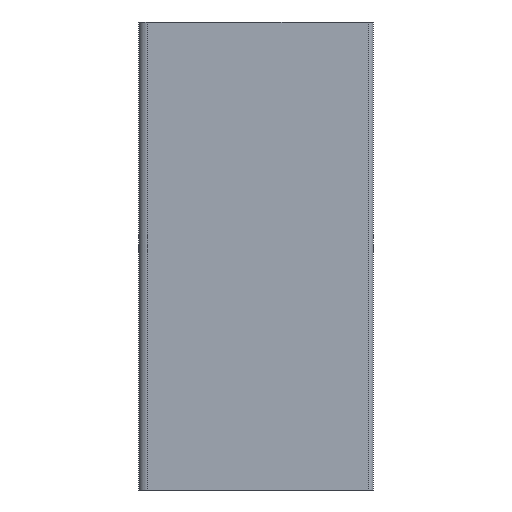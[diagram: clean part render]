
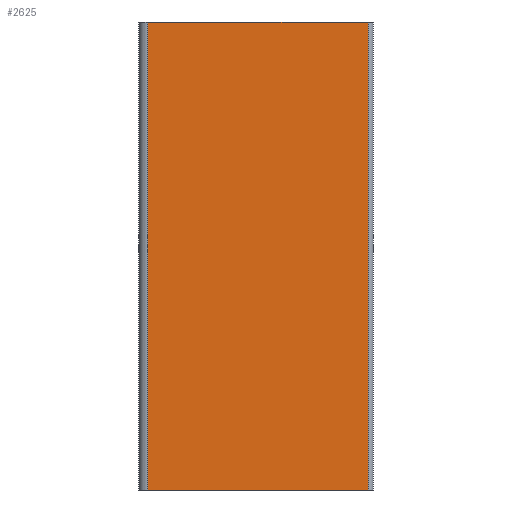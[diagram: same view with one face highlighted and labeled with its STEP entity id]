
A CAD part, left-side view. The second image highlights one B-rep face of the part: STEP entity #2625.
In plain terms, the highlighted planar face has unit normal (-1, 0, 0).
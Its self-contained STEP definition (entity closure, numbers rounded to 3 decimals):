
#186 = VERTEX_POINT ( 'NONE', #3229 ) ;
#364 = LINE ( 'NONE', #365, #366 ) ;
#365 = CARTESIAN_POINT ( 'NONE',  ( -81., 0.5, 50. ) ) ;
#366 = VECTOR ( 'NONE', #367, 1000. ) ;
#367 = DIRECTION ( 'NONE',  ( 0., -1., 0. ) ) ;
#1289 = VERTEX_POINT ( 'NONE', #1365 ) ;
#1365 = CARTESIAN_POINT ( 'NONE',  ( -81., 0.5, 50. ) ) ;
#1506 = EDGE_CURVE ( 'NONE', #1289, #2412, #1531, .T. ) ;
#1531 = LINE ( 'NONE', #1532, #1533 ) ;
#1532 = CARTESIAN_POINT ( 'NONE',  ( -81., 0.5, 50. ) ) ;
#1533 = VECTOR ( 'NONE', #1534, 1000. ) ;
#1534 = DIRECTION ( 'NONE',  ( 0., 0., -1. ) ) ;
#1588 = VERTEX_POINT ( 'NONE', #1604 ) ;
#1604 = CARTESIAN_POINT ( 'NONE',  ( -81., 24.091, 50. ) ) ;
#1772 = LINE ( 'NONE', #1773, #1774 ) ;
#1773 = CARTESIAN_POINT ( 'NONE',  ( -81., 24.091, 50. ) ) ;
#1774 = VECTOR ( 'NONE', #1775, 1000. ) ;
#1775 = DIRECTION ( 'NONE',  ( 0., 0., -1. ) ) ;
#1815 = EDGE_CURVE ( 'NONE', #1588, #186, #1772, .T. ) ;
#1871 = ORIENTED_EDGE ( 'NONE', *, *, #1506, .F. ) ;
#2241 = CARTESIAN_POINT ( 'NONE',  ( -81., 0.5, 0. ) ) ;
#2412 = VERTEX_POINT ( 'NONE', #2241 ) ;
#2529 = EDGE_CURVE ( 'NONE', #186, #2412, #3194, .T. ) ;
#2563 = ORIENTED_EDGE ( 'NONE', *, *, #2529, .T. ) ;
#2604 = EDGE_LOOP ( 'NONE', ( #2563, #1871, #3282, #3093 ) ) ;
#2625 = ADVANCED_FACE ( 'NONE', ( #3572 ), #3573, .F. ) ;
#3093 = ORIENTED_EDGE ( 'NONE', *, *, #1815, .T. ) ;
#3140 = EDGE_CURVE ( 'NONE', #1588, #1289, #364, .T. ) ;
#3194 = LINE ( 'NONE', #3195, #3196 ) ;
#3195 = CARTESIAN_POINT ( 'NONE',  ( -81., 0.5, 0. ) ) ;
#3196 = VECTOR ( 'NONE', #3197, 1000. ) ;
#3197 = DIRECTION ( 'NONE',  ( 0., -1., 0. ) ) ;
#3229 = CARTESIAN_POINT ( 'NONE',  ( -81., 24.091, 0. ) ) ;
#3282 = ORIENTED_EDGE ( 'NONE', *, *, #3140, .F. ) ;
#3572 = FACE_OUTER_BOUND ( 'NONE', #2604, .T. ) ;
#3573 = PLANE ( 'NONE',  #3574 ) ;
#3574 = AXIS2_PLACEMENT_3D ( 'NONE', #3577, #3578, #3579 ) ;
#3577 = CARTESIAN_POINT ( 'NONE',  ( -81., 0.5, 50. ) ) ;
#3578 = DIRECTION ( 'NONE',  ( 1., 0., 0. ) ) ;
#3579 = DIRECTION ( 'NONE',  ( 0., 1., 0. ) ) ;
